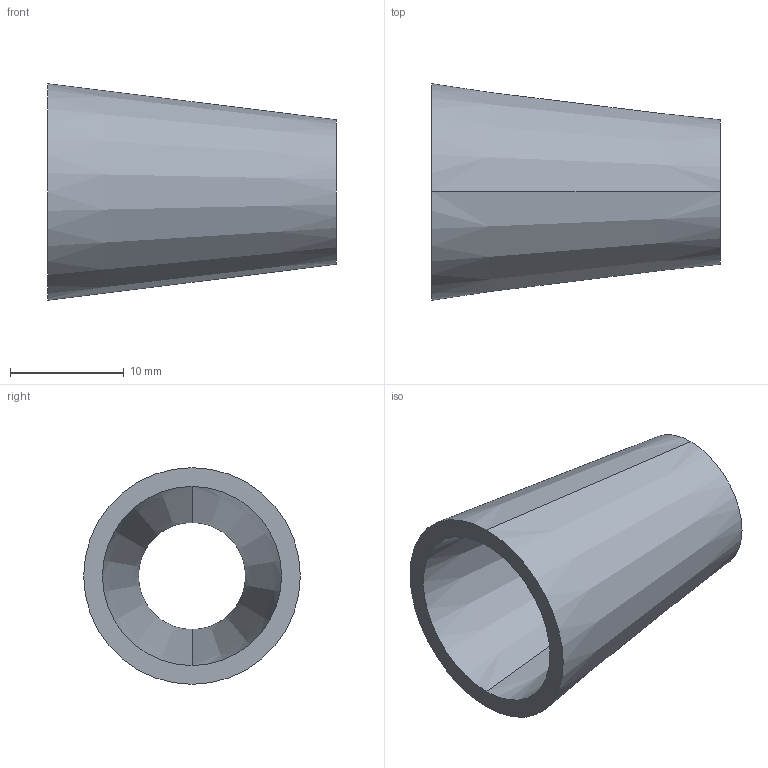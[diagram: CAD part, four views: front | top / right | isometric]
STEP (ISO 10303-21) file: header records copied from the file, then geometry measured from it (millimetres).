
FILE_DESCRIPTION (( 'STEP AP214' ), '1' );
FILE_NAME ('E31WW .75X.5 REV2.STEP', '2025-07-29T12:57:07', ( '' ), ( '' ), 'SwSTEP 2.0', 'SolidWorks 2022', '' );
FILE_SCHEMA (( 'AUTOMOTIVE_DESIGN' ));
Length unit declared in the file: inch
Products named in the file (1): E31WW .75X.5 REV2
Bounding box: 25.4 x 19.05 x 19.05 mm (x, y, z)
Volume: 1873.9 mm3; surface area: 2435.3 mm2
Topology: 1 solids, 1 shells, 6 faces, 12 edges, 8 vertices
Faces by surface type: cone 4, plane 2
Entity records: 208 total; most frequent: DIRECTION 34, CARTESIAN_POINT 27, ORIENTED_EDGE 24, AXIS2_PLACEMENT_3D 15, EDGE_CURVE 12, EDGE_LOOP 8, CIRCLE 8, VERTEX_POINT 8
